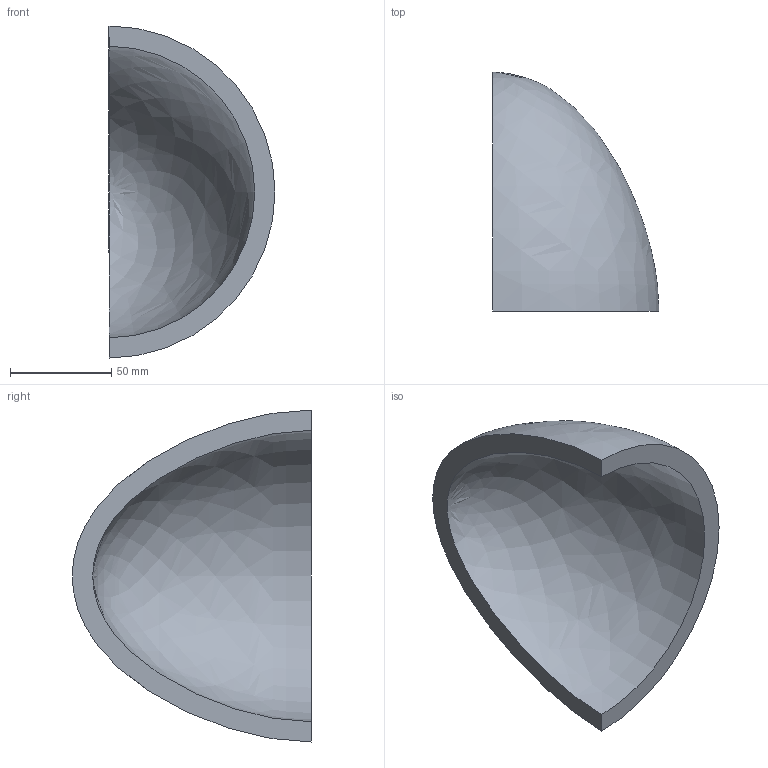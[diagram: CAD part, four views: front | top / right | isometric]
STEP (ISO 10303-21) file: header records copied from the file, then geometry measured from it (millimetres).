
FILE_DESCRIPTION(('CATIA V5 STEP Exchange'),'2;1');
FILE_NAME('C:\_Andres\UNIVERSIDAD\IQS\ASIGNATURAS\DAO\EXF\EXF-16172c\2inicio\Marinetto_Rohr_Ej10_v18.stp','2017-03-05T22:31:12+00:00',('none'),('none'),'CATIA Version 5-6 Release 2014 SP1 HF18','CATIA V5 STEP AP203','none');
FILE_SCHEMA(('CONFIG_CONTROL_DESIGN'));
Length unit declared in the file: millimetre
Products named in the file (1): Marinetto_Rohr_Ej10_v18
Bounding box: 82 x 118 x 164 mm (x, y, z)
Volume: 237855.8 mm3; surface area: 53066.6 mm2
Topology: 1 solids, 1 shells, 4 faces, 10 edges, 6 vertices
Faces by surface type: revolution 2, plane 2
Entity records: 239 total; most frequent: CARTESIAN_POINT 117, ORIENTED_EDGE 16, DIRECTION 10, EDGE_CURVE 8, B_SPLINE_CURVE_WITH_KNOTS 6, VERTEX_POINT 6, AXIS2_PLACEMENT_3D 5, ADVANCED_FACE 4
